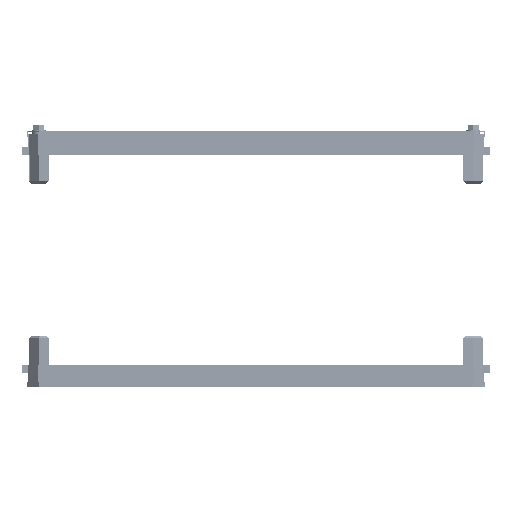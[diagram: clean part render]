
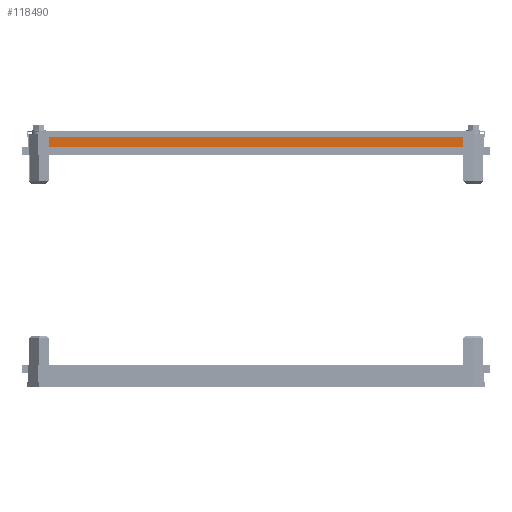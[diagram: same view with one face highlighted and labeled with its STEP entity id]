
A CAD part, front view. The second image highlights one B-rep face of the part: STEP entity #118490.
In plain terms, the highlighted planar face has unit normal (0, -1, 0).
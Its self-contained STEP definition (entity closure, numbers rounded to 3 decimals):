
#1348 = LINE ( 'NONE', #124321, #116758 ) ;
#4851 = EDGE_CURVE ( 'NONE', #199477, #166154, #118478, .T. ) ;
#9035 = LINE ( 'NONE', #132948, #142397 ) ;
#22951 = AXIS2_PLACEMENT_3D ( 'NONE', #93084, #46304, #155053 ) ;
#26034 = EDGE_LOOP ( 'NONE', ( #59370, #83394, #190141, #52824 ) ) ;
#33067 = LINE ( 'NONE', #159045, #172105 ) ;
#37206 = CARTESIAN_POINT ( 'NONE',  ( -554.05, -781.1, 430.9 ) ) ;
#39585 = CARTESIAN_POINT ( 'NONE',  ( 153.95, -781.1, 408.4 ) ) ;
#42944 = CARTESIAN_POINT ( 'NONE',  ( 153.95, -781.1, 430.9 ) ) ;
#46304 = DIRECTION ( 'NONE',  ( 0., 1., 0. ) ) ;
#49606 = VERTEX_POINT ( 'NONE', #39585 ) ;
#52824 = ORIENTED_EDGE ( 'NONE', *, *, #192140, .F. ) ;
#55710 = DIRECTION ( 'NONE',  ( -1., 0., 0. ) ) ;
#59370 = ORIENTED_EDGE ( 'NONE', *, *, #138989, .T. ) ;
#60621 = CARTESIAN_POINT ( 'NONE',  ( -554.05, -781.1, 430.9 ) ) ;
#83394 = ORIENTED_EDGE ( 'NONE', *, *, #4851, .F. ) ;
#87349 = VERTEX_POINT ( 'NONE', #177033 ) ;
#93084 = CARTESIAN_POINT ( 'NONE',  ( -554.05, -781.1, 409.7 ) ) ;
#98409 = EDGE_CURVE ( 'NONE', #87349, #199477, #1348, .T. ) ;
#101221 = DIRECTION ( 'NONE',  ( 1., 0., 0. ) ) ;
#116758 = VECTOR ( 'NONE', #167030, 1000. ) ;
#118478 = LINE ( 'NONE', #37206, #118774 ) ;
#118490 = ADVANCED_FACE ( 'NONE', ( #139813 ), #169287, .F. ) ;
#118774 = VECTOR ( 'NONE', #101221, 1000. ) ;
#124321 = CARTESIAN_POINT ( 'NONE',  ( -554.05, -781.1, 409.7 ) ) ;
#132948 = CARTESIAN_POINT ( 'NONE',  ( -554.05, -781.1, 408.4 ) ) ;
#138989 = EDGE_CURVE ( 'NONE', #49606, #166154, #33067, .T. ) ;
#139813 = FACE_OUTER_BOUND ( 'NONE', #26034, .T. ) ;
#141812 = DIRECTION ( 'NONE',  ( 0., 0., 1. ) ) ;
#142397 = VECTOR ( 'NONE', #55710, 1000. ) ;
#155053 = DIRECTION ( 'NONE',  ( 1., 0., 0. ) ) ;
#159045 = CARTESIAN_POINT ( 'NONE',  ( 153.95, -781.1, 409.7 ) ) ;
#166154 = VERTEX_POINT ( 'NONE', #42944 ) ;
#167030 = DIRECTION ( 'NONE',  ( 0., 0., 1. ) ) ;
#169287 = PLANE ( 'NONE',  #22951 ) ;
#172105 = VECTOR ( 'NONE', #141812, 1000. ) ;
#177033 = CARTESIAN_POINT ( 'NONE',  ( -554.05, -781.1, 408.4 ) ) ;
#190141 = ORIENTED_EDGE ( 'NONE', *, *, #98409, .F. ) ;
#192140 = EDGE_CURVE ( 'NONE', #49606, #87349, #9035, .T. ) ;
#199477 = VERTEX_POINT ( 'NONE', #60621 ) ;
